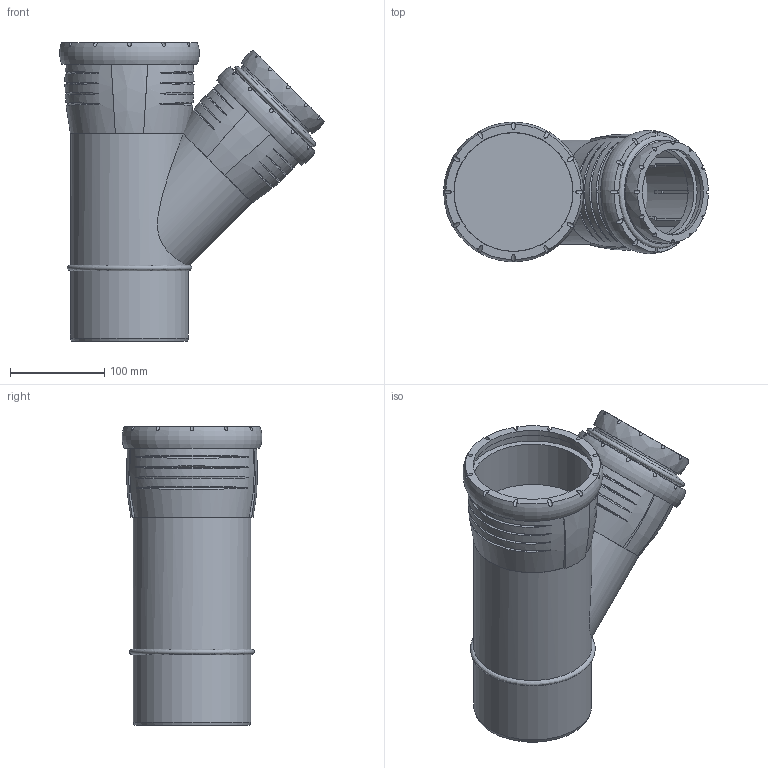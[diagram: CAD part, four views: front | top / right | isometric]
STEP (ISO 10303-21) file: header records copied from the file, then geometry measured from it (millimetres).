
FILE_DESCRIPTION(/* description */ (''),/* implementation_level */ '2;1');
FILE_NAME(/* name */ 'H:\Geberit-Teile\Export\Abzweig PP\stp\393634.stp',/* time_stamp */ '2017-02-13T13:20:15+01:00',/* author */ ('seihe2'),/* organization */ (''),/* preprocessor_version */ 'ST-DEVELOPER v15.2',/* originating_system */ 'Autodesk Inventor 2014',/* authorisation */ '');
FILE_SCHEMA (('AUTOMOTIVE_DESIGN { 1 0 10303 214 3 1 1 }'));
Length unit declared in the file: millimetre
Products named in the file (1): 393634
Bounding box: 281.05 x 148.35 x 316.91 mm (x, y, z)
Volume: 3691324.6 mm3; surface area: 447426.9 mm2
Topology: 6 solids, 6 shells, 165 faces, 407 edges, 281 vertices
Faces by surface type: cylinder 62, plane 51, bspline 48, cone 2, torus 2
Full cylindrical faces by diameter (mm): 90 x1, 90.9 x1, 91.2 x1, 95.978 x1, 100.2 x1, 100.5 x1, 101.2 x1, 110.2 x1, 111 x1, 111.3 x1, 115.2 x1, 121.5 x1, 125.2 x3, 126 x1, 126.4 x1, 138.1 x1
Entity records: 9976 total; most frequent: CARTESIAN_POINT 6256, ORIENTED_EDGE 754, DIRECTION 648, EDGE_CURVE 376, AXIS2_PLACEMENT_3D 292, VERTEX_POINT 272, EDGE_LOOP 220, STYLED_ITEM 170
